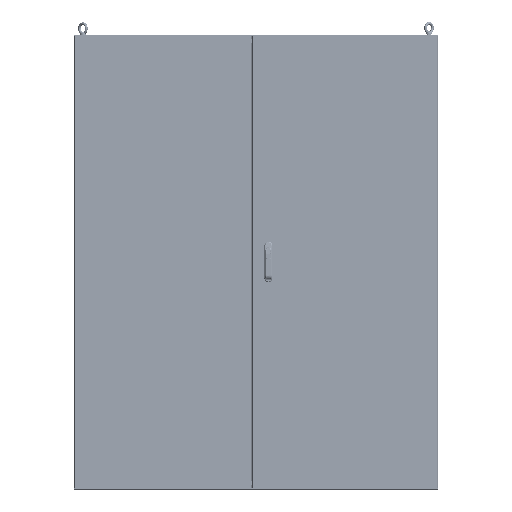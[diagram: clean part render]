
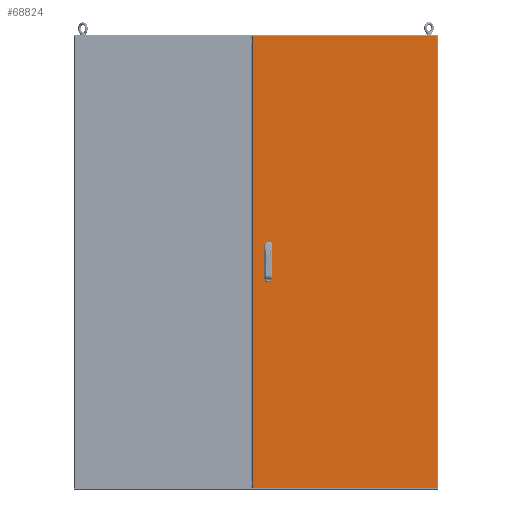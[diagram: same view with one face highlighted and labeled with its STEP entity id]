
A CAD part, front view. The second image highlights one B-rep face of the part: STEP entity #68824.
In plain terms, the highlighted planar face has unit normal (0, -1, 0).
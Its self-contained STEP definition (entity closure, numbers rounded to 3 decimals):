
#22317=ORIENTED_EDGE('',*,*,#32740,.T.);
#22318=ORIENTED_EDGE('',*,*,#32741,.T.);
#22319=ORIENTED_EDGE('',*,*,#32742,.T.);
#22320=ORIENTED_EDGE('',*,*,#32743,.T.);
#22321=ORIENTED_EDGE('',*,*,#32744,.F.);
#22322=ORIENTED_EDGE('',*,*,#32745,.T.);
#22323=ORIENTED_EDGE('',*,*,#32746,.T.);
#22324=ORIENTED_EDGE('',*,*,#32747,.T.);
#22325=ORIENTED_EDGE('',*,*,#32748,.T.);
#22326=ORIENTED_EDGE('',*,*,#32749,.T.);
#22327=ORIENTED_EDGE('',*,*,#32750,.T.);
#22328=ORIENTED_EDGE('',*,*,#32751,.T.);
#32740=EDGE_CURVE('',#39443,#39444,#45754,.T.);
#32741=EDGE_CURVE('',#39444,#39445,#45755,.T.);
#32742=EDGE_CURVE('',#39445,#39446,#45756,.T.);
#32743=EDGE_CURVE('',#39446,#39443,#45757,.T.);
#32744=EDGE_CURVE('',#39447,#39448,#45758,.T.);
#32745=EDGE_CURVE('',#39447,#39449,#45759,.T.);
#32746=EDGE_CURVE('',#39449,#39450,#45760,.T.);
#32747=EDGE_CURVE('',#39450,#39448,#45761,.T.);
#32748=EDGE_CURVE('',#39451,#39452,#45762,.T.);
#32749=EDGE_CURVE('',#39452,#39453,#45763,.T.);
#32750=EDGE_CURVE('',#39453,#39454,#45764,.T.);
#32751=EDGE_CURVE('',#39454,#39451,#45765,.T.);
#39443=VERTEX_POINT('',#121001);
#39444=VERTEX_POINT('',#121002);
#39445=VERTEX_POINT('',#121004);
#39446=VERTEX_POINT('',#121006);
#39447=VERTEX_POINT('',#121009);
#39448=VERTEX_POINT('',#121010);
#39449=VERTEX_POINT('',#121012);
#39450=VERTEX_POINT('',#121014);
#39451=VERTEX_POINT('',#121017);
#39452=VERTEX_POINT('',#121018);
#39453=VERTEX_POINT('',#121020);
#39454=VERTEX_POINT('',#121022);
#45754=LINE('',#121000,#52102);
#45755=LINE('',#121003,#52103);
#45756=LINE('',#121005,#52104);
#45757=LINE('',#121007,#52105);
#45758=LINE('',#121008,#52106);
#45759=LINE('',#121011,#52107);
#45760=LINE('',#121013,#52108);
#45761=LINE('',#121015,#52109);
#45762=LINE('',#121016,#52110);
#45763=LINE('',#121019,#52111);
#45764=LINE('',#121021,#52112);
#45765=LINE('',#121023,#52113);
#52102=VECTOR('',#94891,1000.);
#52103=VECTOR('',#94892,1000.);
#52104=VECTOR('',#94893,1000.);
#52105=VECTOR('',#94894,1000.);
#52106=VECTOR('',#94895,1000.);
#52107=VECTOR('',#94896,1000.);
#52108=VECTOR('',#94897,1000.);
#52109=VECTOR('',#94898,1000.);
#52110=VECTOR('',#94899,1000.);
#52111=VECTOR('',#94900,1000.);
#52112=VECTOR('',#94901,1000.);
#52113=VECTOR('',#94902,1000.);
#57614=EDGE_LOOP('',(#22317,#22318,#22319,#22320));
#57615=EDGE_LOOP('',(#22321,#22322,#22323,#22324));
#57616=EDGE_LOOP('',(#22325,#22326,#22327,#22328));
#62862=FACE_BOUND('',#57614,.T.);
#62863=FACE_BOUND('',#57615,.T.);
#62864=FACE_BOUND('',#57616,.T.);
#65293=PLANE('',#77661);
#68824=ADVANCED_FACE('',(#62862,#62863,#62864),#65293,.F.);
#77661=AXIS2_PLACEMENT_3D('',#120999,#94889,#94890);
#94889=DIRECTION('',(0.,1.,0.));
#94890=DIRECTION('',(1.,0.,0.));
#94891=DIRECTION('',(-1.,0.,0.));
#94892=DIRECTION('',(0.,0.,1.));
#94893=DIRECTION('',(1.,0.,0.));
#94894=DIRECTION('',(0.,0.,-1.));
#94895=DIRECTION('',(1.,0.,0.));
#94896=DIRECTION('',(0.,0.,-1.));
#94897=DIRECTION('',(1.,0.,0.));
#94898=DIRECTION('',(0.,0.,1.));
#94899=DIRECTION('',(-1.,0.,0.));
#94900=DIRECTION('',(0.,0.,1.));
#94901=DIRECTION('',(1.,0.,0.));
#94902=DIRECTION('',(0.,0.,-1.));
#120999=CARTESIAN_POINT('',(0.,-12.75,0.));
#121000=CARTESIAN_POINT('',(44.789,-12.75,-75.));
#121001=CARTESIAN_POINT('',(44.789,-12.75,-75.));
#121002=CARTESIAN_POINT('',(19.789,-12.75,-75.));
#121003=CARTESIAN_POINT('',(19.789,-12.75,-75.));
#121004=CARTESIAN_POINT('',(19.789,-12.75,-25.));
#121005=CARTESIAN_POINT('',(19.789,-12.75,-25.));
#121006=CARTESIAN_POINT('',(44.789,-12.75,-25.));
#121007=CARTESIAN_POINT('',(44.789,-12.75,-25.));
#121008=CARTESIAN_POINT('',(1.043,-12.75,991.7));
#121009=CARTESIAN_POINT('',(-34.911,-12.75,991.7));
#121010=CARTESIAN_POINT('',(773.,-12.75,991.7));
#121011=CARTESIAN_POINT('',(-34.911,-12.75,991.7));
#121012=CARTESIAN_POINT('',(-34.911,-12.75,-991.7));
#121013=CARTESIAN_POINT('',(1.043,-12.75,-991.7));
#121014=CARTESIAN_POINT('',(773.,-12.75,-991.7));
#121015=CARTESIAN_POINT('',(773.,-12.75,0.));
#121016=CARTESIAN_POINT('',(44.789,-12.75,25.));
#121017=CARTESIAN_POINT('',(44.789,-12.75,25.));
#121018=CARTESIAN_POINT('',(19.789,-12.75,25.));
#121019=CARTESIAN_POINT('',(19.789,-12.75,25.));
#121020=CARTESIAN_POINT('',(19.789,-12.75,75.));
#121021=CARTESIAN_POINT('',(19.789,-12.75,75.));
#121022=CARTESIAN_POINT('',(44.789,-12.75,75.));
#121023=CARTESIAN_POINT('',(44.789,-12.75,75.));
